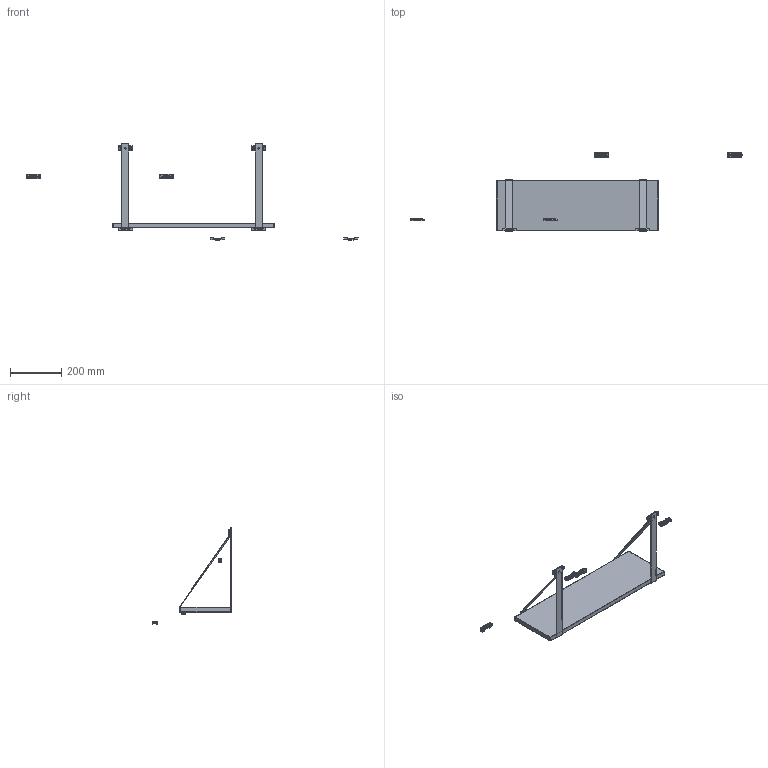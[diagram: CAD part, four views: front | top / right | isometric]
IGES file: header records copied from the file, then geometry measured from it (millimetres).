
Start section: C
Global section: file name: 8338 Set1.igs; native system: By Siemens PLM Incorporated; preprocessor: XPlus GENERIC/IGES 16.0.42; author: Author; organization: Title; date: 20260104.132536; units: millimetre
Bounding box: 1296.16 x 307.03 x 375.28 mm (x, y, z)
Surface area: 438205.6 mm2 (no closed solid volume)
Topology: 0 solids, 0 shells, 846 faces, 4872 edges, 4640 vertices
Faces by surface type: bspline 846
